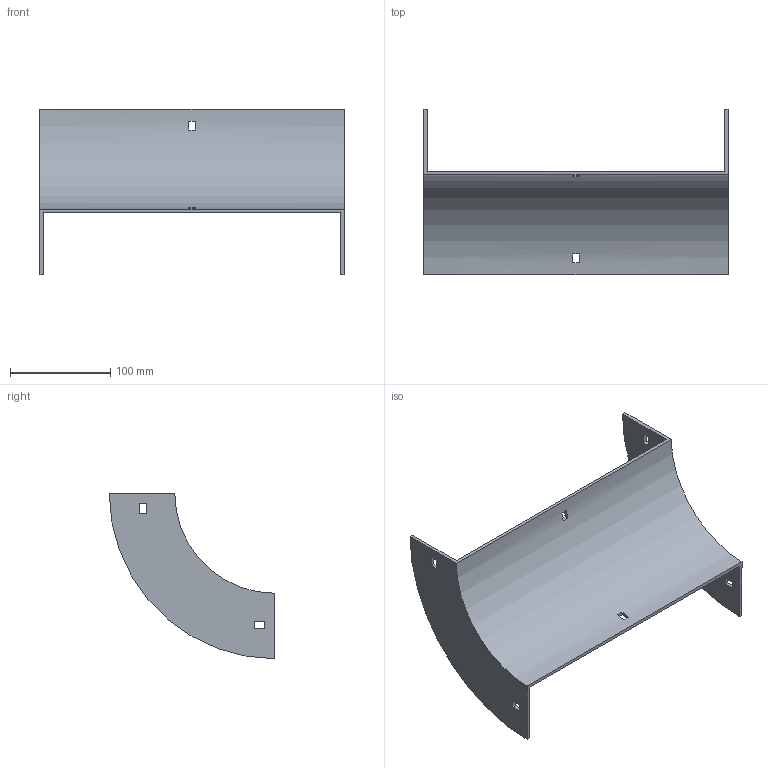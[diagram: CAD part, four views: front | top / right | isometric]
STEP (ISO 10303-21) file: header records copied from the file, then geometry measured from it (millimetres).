
FILE_DESCRIPTION (( 'STEP AP214' ), '1' );
FILE_NAME ('33B1H300.step', '2025-02-21T09:32:09', ( '' ), ( '' ), 'SwSTEP 2.0', 'SolidWorks 2023', '' );
FILE_SCHEMA (( 'AUTOMOTIVE_DESIGN' ));
Length unit declared in the file: millimetre
Products named in the file (1): 33B1H300
Bounding box: 304 x 165.5 x 165.5 mm (x, y, z)
Volume: 260354.5 mm3; surface area: 154266.6 mm2
Topology: 1 solids, 1 shells, 34 faces, 96 edges, 64 vertices
Faces by surface type: plane 30, cylinder 4
Entity records: 1143 total; most frequent: CARTESIAN_POINT 195, ORIENTED_EDGE 192, DIRECTION 182, EDGE_CURVE 96, LINE 80, VECTOR 80, VERTEX_POINT 64, AXIS2_PLACEMENT_3D 51
